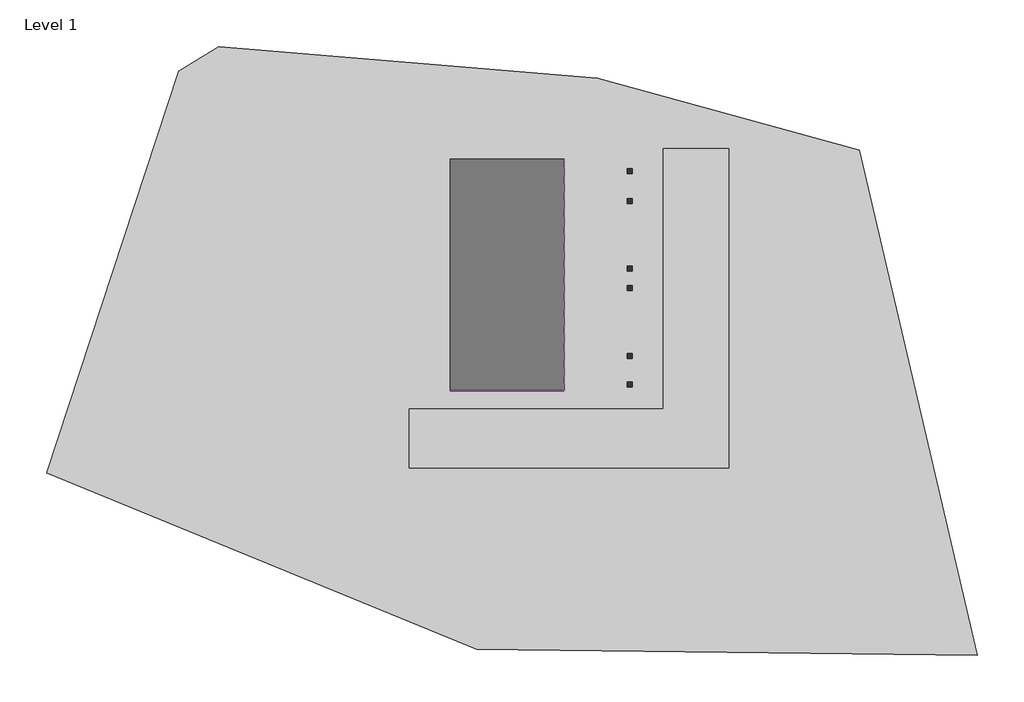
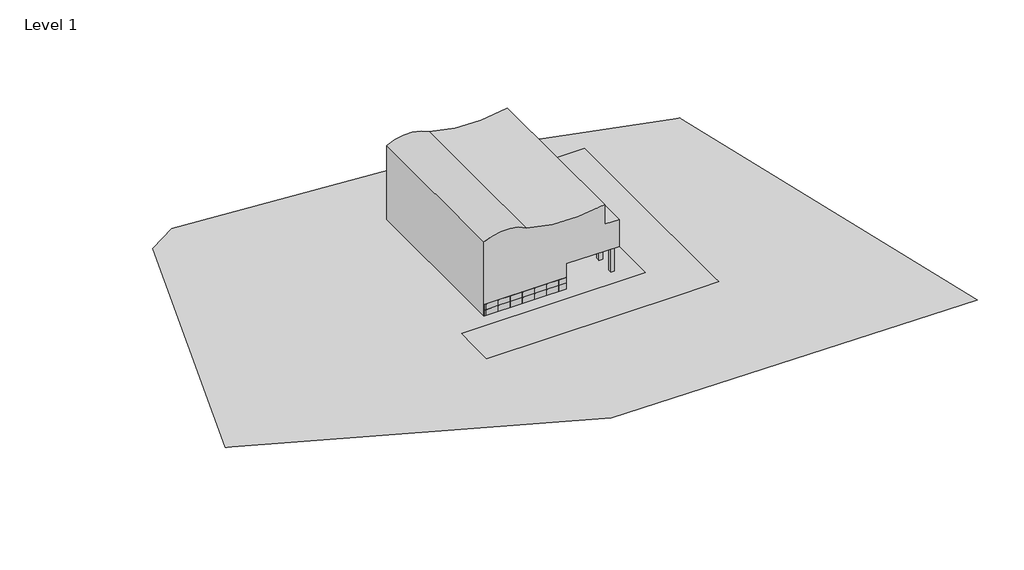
# One storey: 44 plates, 6 columns, 3 proxies.
"""IFC4 building model written with IfcOpenShell, lengths in millimetres."""

import ifcopenshell
import ifcopenshell.guid

model = None  # the IFC model being written
_history = None  # IfcOwnerHistory: only IFC2X3 demands one
_inside = {}  # id of a spatial element -> (the spatial element, [elements in it])
_under = {}  # id of a project, library or spatial element -> (it, [spatial elements below it])
_declared = {}  # id of a project -> (the project, [libraries it declares])
_typed = {}  # id of a type object -> (the type object, [elements of that type])
_made_of = {}  # id of a material, layer set ... -> (it, [elements and type objects made of it])


def new_model(schema):
    """Start an empty IFC model of exactly this schema.

    Asked for "IFC4X3", IfcOpenShell would pick the latest addendum, in which some entities
    have other attributes; the version numbers below select the first issue.
    IFC2X3 requires an IfcOwnerHistory on every rooted entity: one is made here for all.
    """
    global model, _history
    if schema == "IFC4X3":
        model = ifcopenshell.file(schema_version=(4, 3, 0, 0))
    else:
        model = ifcopenshell.file(schema=schema)
    _inside.clear()
    _under.clear()
    _declared.clear()
    _typed.clear()
    _made_of.clear()
    _history = None
    if model.schema == "IFC2X3":
        org = make("IfcOrganization", Name="unknown")
        user = make(
            "IfcPersonAndOrganization",
            ThePerson=make("IfcPerson", FamilyName="unknown"),
            TheOrganization=org,
        )
        app = make(
            "IfcApplication",
            ApplicationDeveloper=org,
            Version="unknown",
            ApplicationFullName="unknown",
            ApplicationIdentifier="unknown",
        )
        _history = make(
            "IfcOwnerHistory",
            OwningUser=user,
            OwningApplication=app,
            ChangeAction="ADDED",
            CreationDate=0,
        )
    return model


def make(cls, **values):
    """One entity of the class cls with the attributes given. An attribute that is None is left unset."""
    return model.create_entity(
        cls, **{name: value for name, value in values.items() if value is not None}
    )


def rooted(cls, **values):
    """An entity with a GlobalId (a new one), such as an element, a storey or a relation."""
    return make(cls, GlobalId=ifcopenshell.guid.new(), OwnerHistory=_history, **values)


def si_unit(unit_type, name, prefix=None):
    """IfcSIUnit, for example si_unit("LENGTHUNIT", "METRE", prefix="MILLI")."""
    return make("IfcSIUnit", UnitType=unit_type, Prefix=prefix, Name=name)


def assignment(units):
    """IfcUnitAssignment: the units of a project."""
    return None if units is None else make("IfcUnitAssignment", Units=units)


def point(xyz):
    """IfcCartesianPoint."""
    return None if xyz is None else make("IfcCartesianPoint", Coordinates=xyz)


def direction(xyz):
    """IfcDirection."""
    return None if xyz is None else make("IfcDirection", DirectionRatios=xyz)


def frame(location, z_axis=None, x_axis=None):
    """IfcAxis2Placement3D, a coordinate frame: its origin and axes. An axis left out is left unset."""
    return make(
        "IfcAxis2Placement3D",
        Location=point(location),
        Axis=direction(z_axis),
        RefDirection=direction(x_axis),
    )


def frame_2d(location, x_axis=None):
    """IfcAxis2Placement2D, a coordinate frame in the plane: its origin and x axis."""
    return make(
        "IfcAxis2Placement2D", Location=point(location), RefDirection=direction(x_axis)
    )


def origin():
    """The frame at (0, 0, 0) with its axes left unset."""
    return frame((0.0, 0.0, 0.0))


def origin_with_axes():
    """The frame at (0, 0, 0) with the z axis (0, 0, 1) and the x axis (1, 0, 0) written out."""
    return frame((0.0, 0.0, 0.0), z_axis=(0.0, 0.0, 1.0), x_axis=(1.0, 0.0, 0.0))


def place(relative_to, where):
    """IfcLocalPlacement: puts the frame where relative to a parent placement (None: the world)."""
    return make(
        "IfcLocalPlacement", PlacementRelTo=relative_to, RelativePlacement=where
    )


def context(
    kind, dimensions, precision=None, world=None, true_north=None, identifier=None
):
    """IfcGeometricRepresentationContext, for example the 3D "Model" context."""
    return make(
        "IfcGeometricRepresentationContext",
        ContextIdentifier=identifier,
        ContextType=kind,
        CoordinateSpaceDimension=dimensions,
        Precision=precision,
        WorldCoordinateSystem=world,
        TrueNorth=true_north,
    )


def project(units=None, contexts=None):
    """IfcProject with its units and contexts."""
    return rooted(
        "IfcProject",
        Name="project",
        RepresentationContexts=contexts,
        UnitsInContext=assignment(units),
    )


def spatial(cls, under=None, at=None, **own):
    """A site, building, storey or space (cls), placed at a placement, below another one or the project."""
    s = rooted(cls, ObjectPlacement=at, **own)
    if under is not None:
        _under.setdefault(under.id(), (under, []))[1].append(s)
    return s


def polyline(points):
    """IfcPolyline through the points."""
    return make("IfcPolyline", Points=[point(p) for p in points])


def point_list(points):
    """IfcCartesianPointList2D or 3D."""
    cls = (
        "IfcCartesianPointList2D" if len(points[0]) == 2 else "IfcCartesianPointList3D"
    )
    return make(cls, CoordList=points)


def circle_curve(where, radius):
    """IfcCircle in the frame where."""
    return make("IfcCircle", Position=where, Radius=radius)


def trimmed(basis, trim1, trim2, sense, master):
    """IfcTrimmedCurve: the piece of a basis curve between two trims."""
    return make(
        "IfcTrimmedCurve",
        BasisCurve=basis,
        Trim1=trim1,
        Trim2=trim2,
        SenseAgreement=sense,
        MasterRepresentation=master,
    )


def segment(curve, same_sense, transition):
    """IfcCompositeCurveSegment."""
    return make(
        "IfcCompositeCurveSegment",
        Transition=transition,
        SameSense=same_sense,
        ParentCurve=curve,
    )


def composite_curve(segments, self_intersect=None):
    """IfcCompositeCurve: segments joined end to end."""
    return make("IfcCompositeCurve", Segments=segments, SelfIntersect=self_intersect)


def outline(outer, holes=None, kind="AREA"):
    """IfcArbitraryClosedProfileDef: a profile drawn as a closed curve; with holes, ...WithVoids."""
    if holes is None:
        return make("IfcArbitraryClosedProfileDef", ProfileType=kind, OuterCurve=outer)
    return make(
        "IfcArbitraryProfileDefWithVoids",
        ProfileType=kind,
        OuterCurve=outer,
        InnerCurves=holes,
    )


def extrude(swept, where, along, depth):
    """IfcExtrudedAreaSolid: the profile swept, set in the frame where, extruded along a direction by depth."""
    return make(
        "IfcExtrudedAreaSolid",
        SweptArea=swept,
        Position=where,
        ExtrudedDirection=direction(along),
        Depth=depth,
    )


def triangles(points, corners, closed=None, point_numbers=None):
    """IfcTriangulatedFaceSet: each triangle names its three corners, points numbered from 1."""
    return make(
        "IfcTriangulatedFaceSet",
        Coordinates=point_list(points),
        Closed=closed,
        CoordIndex=corners,
        PnIndex=point_numbers,
    )


def shape(context_of_items, identifier, shape_type, items):
    """IfcShapeRepresentation: the items that make up one representation, for example the "Body"."""
    return make(
        "IfcShapeRepresentation",
        ContextOfItems=context_of_items,
        RepresentationIdentifier=identifier,
        RepresentationType=shape_type,
        Items=items,
    )


def source(mapping_origin, context_of_items, identifier, shape_type, items):
    """IfcRepresentationMap: a shape defined once, which mapped items show again and again."""
    return make(
        "IfcRepresentationMap",
        MappingOrigin=mapping_origin,
        MappedRepresentation=shape(context_of_items, identifier, shape_type, items),
    )


def transform(
    local_origin,
    x_axis=None,
    y_axis=None,
    z_axis=None,
    scale=None,
    scale2=None,
    scale3=None,
    uniform=True,
):
    """IfcCartesianTransformationOperator3D, or its non-uniform kind. x_axis, y_axis, z_axis: its Axis1, 2, 3."""
    if uniform:
        return make(
            "IfcCartesianTransformationOperator3D",
            Axis1=direction(x_axis),
            Axis2=direction(y_axis),
            LocalOrigin=point(local_origin),
            Scale=scale,
            Axis3=direction(z_axis),
        )
    return make(
        "IfcCartesianTransformationOperator3DnonUniform",
        Axis1=direction(x_axis),
        Axis2=direction(y_axis),
        LocalOrigin=point(local_origin),
        Scale=scale,
        Axis3=direction(z_axis),
        Scale2=scale2,
        Scale3=scale3,
    )


def mapped(mapping_source, mapping_target):
    """IfcMappedItem: shows the shape of a source again, moved by a transform."""
    return make(
        "IfcMappedItem", MappingSource=mapping_source, MappingTarget=mapping_target
    )


def made_of(thing, what):
    """Note that an element or type object is made of a material, layer set ...; save() writes the relation."""
    if what is not None:
        _made_of.setdefault(what.id(), (what, []))[1].append(thing)
    return thing


def element(
    cls,
    number,
    at=None,
    inside=None,
    cuts=None,
    type_object=None,
    material=None,
    context=None,
    identifier="Body",
    shape_type=None,
    held_by="IfcProductDefinitionShape",
    body=None,
    shapes=None,
    **own,
):
    """One element of the class cls, such as IfcWall. Its Tag is "e" and its number.

    at: its placement. inside: the storey or other place that contains it. cuts: it is an
    opening in that element (IfcRelVoidsElement). A single representation is given by context,
    identifier, shape_type and body (its items); several are given by shapes. held_by: the class
    of the entity that holds the representations. save() writes the other relations.
    """
    e = rooted(cls, Tag="e%d" % number, ObjectPlacement=at, **own)
    if body is not None:
        shapes = [shape(context, identifier, shape_type, body)]
    if shapes is not None:
        e.Representation = make(held_by, Representations=shapes)
    if inside is not None:
        _inside.setdefault(inside.id(), (inside, []))[1].append(e)
    if cuts is not None:
        rooted(
            "IfcRelVoidsElement", RelatingBuildingElement=cuts, RelatedOpeningElement=e
        )
    if type_object is not None:
        _typed.setdefault(type_object.id(), (type_object, []))[1].append(e)
    return made_of(e, material)


def aggregate(whole, parts):
    """IfcRelAggregates: a whole, such as a stair, and the parts it consists of."""
    return rooted("IfcRelAggregates", RelatingObject=whole, RelatedObjects=parts)


def save(model, path):
    """Write the relations noted so far, then the file.

    IfcRelAggregates (storeys below a building ...), IfcRelContainedInSpatialStructure (elements
    in a storey), IfcRelDefinesByType, IfcRelAssociatesMaterial and IfcRelDeclares: one each for
    every whole, place, type object, material and project.
    """
    for whole, parts in _under.values():
        aggregate(whole, parts)
    for where, things in _inside.values():
        rooted(
            "IfcRelContainedInSpatialStructure",
            RelatedElements=things,
            RelatingStructure=where,
        )
    for kind, things in _typed.values():
        rooted("IfcRelDefinesByType", RelatedObjects=things, RelatingType=kind)
    for what, things in _made_of.values():
        rooted("IfcRelAssociatesMaterial", RelatedObjects=things, RelatingMaterial=what)
    for by, libraries in _declared.values():
        rooted("IfcRelDeclares", RelatingContext=by, RelatedDefinitions=libraries)
    model.write(path)


def concrete_rectangular_column_12_x_19_ccad1d0a(model_context):
    return source(origin(), model_context, "Body", "SweptSolid", [
        extrude(outline(polyline([(457.2, 457.2), (457.2, -457.2), (-457.2, -457.2), (-457.2, 457.2), (457.2, 457.2)])), origin_with_axes(), (0.0, 0.0, 1.0), 6705.6),
    ])


def system_panel_glazed_81988b3c(model_context):
    return source(origin(), model_context, "Body", "SweptSolid", [
        extrude(outline(polyline([(990.6, 19.05), (-990.6, 19.05), (-990.6, 44.45), (990.6, 44.45), (990.6, 19.05)])), origin_with_axes(), (0.0, 0.0, 1.0), 1524.0),
    ])


def system_panel_glazed_0faff7bc(model_context):
    return source(origin(), model_context, "Body", "SweptSolid", [
        extrude(outline(polyline([(1524.0, 19.05), (-1524.0, 19.05), (-1524.0, 44.45), (1524.0, 44.45), (1524.0, 19.05)])), origin_with_axes(), (0.0, 0.0, 1.0), 1524.0),
    ])


def system_panel_glazed_3beef6a9(model_context):
    return source(origin(), model_context, "Body", "SweptSolid", [
        extrude(outline(polyline([(222.6119514, 19.05), (-222.6119514, 19.05), (-222.6119514, 44.45), (222.6119514, 44.45), (222.6119514, 19.05)])), origin_with_axes(), (0.0, 0.0, 1.0), 1524.0),
    ])


def system_panel_glazed_27cb410f(model_context):
    return source(origin(), model_context, "Body", "SweptSolid", [
        extrude(outline(polyline([(1319.7377931, 19.05), (-1319.7377931, 19.05), (-1319.7377931, 44.45), (1319.7377931, 44.45), (1319.7377931, 19.05)])), origin_with_axes(), (0.0, 0.0, 1.0), 1524.0),
    ])


model = new_model("IFC4")

# Units and contexts
model_context = context("Model", 3, world=origin())
ifc_project = project(units=[si_unit("LENGTHUNIT", "METRE", prefix="MILLI")], contexts=[model_context])

# Site, building, storey
site = spatial("IfcSite", under=ifc_project)
building = spatial("IfcBuilding", under=site)
storey = spatial("IfcBuildingStorey", under=building, Name="Level 1", Elevation=0.0)

# Proxies
placement = place(None, origin())
element("IfcBuildingElementProxy", 1, Name="Building Element Proxy", at=placement, inside=storey, context=model_context, shape_type="Tessellation", body=[
    triangles([(-59818.1394653, 45273.3667969, 0.0), (-67110.7920044, 40785.5849121, 0.0), (-91260.2249268, -32611.2140991, 0.0), (-12810.4575989, -64815.2856079, 0.0), (78583.2963867, -65870.8490845, 0.0), (57051.2757935, 26387.2707458, 0.0), (9181.5610794, 39476.6462036, 0.0), (21148.9904846, -20787.5474304, 0.0), (21148.9904846, 23760.9287292, 0.0), (21148.9904846, 26761.2525696, 0.0), (28426.478833, 26761.2525696, 0.0), (33340.9904846, 26761.2525696, 0.0), (33340.9904846, 23514.1670471, 0.0), (33340.9904846, 7750.3019302, 0.0), (33340.9904846, -30119.7312927, 0.0), (33340.9904846, -31760.3474304, 0.0), (24131.1665955, -31760.3474304, 0.0), (-25180.6095154, -31760.3474304, 0.0), (-25180.6095154, -25946.5278809, 0.0), (-25180.6095154, -20787.5474304, 0.0), (-22470.9609558, -20787.5474304, 0.0), (61539.0576782, 4883.2984406, 0.0), (58734.1916748, -25596.2446106, 0.0), (-33639.3932007, -42051.4564819, 0.0), (-63370.9737671, 22460.4592712, 0.0)], [[20, 3, 24], [24, 3, 4], [19, 24, 18], [19, 20, 24], [4, 18, 24], [17, 18, 4], [2, 25, 1], [25, 2, 3], [1, 25, 7], [20, 21, 7], [9, 7, 21], [20, 7, 25], [25, 3, 20], [21, 8, 9], [17, 4, 16], [15, 16, 23], [23, 5, 22], [5, 23, 16], [22, 5, 6], [15, 23, 14], [4, 5, 16], [22, 14, 23], [10, 11, 7], [9, 10, 7], [13, 14, 6], [12, 6, 7], [6, 12, 13], [14, 22, 6], [11, 12, 7]], closed=False),
])
element("IfcBuildingElementProxy", 2, Name="Building Element Proxy", at=placement, inside=storey, context=model_context, shape_type="Tessellation", body=[
    triangles([(21148.9904846, -20787.5474304, 0.0), (-22470.9609558, -20787.5474304, 0.0), (-25180.6095154, -20787.5474304, 0.0), (-25180.6095154, -25946.5278809, 0.0), (-25180.6095154, -31760.3474304, 0.0), (24131.1665955, -31760.3474304, 0.0), (33340.9904846, -31760.3474304, 0.0), (33340.9904846, -30119.7312927, 0.0), (33340.9904846, 7750.3019302, 0.0), (33340.9904846, 23514.1670471, 0.0), (33340.9904846, 26761.2525696, 0.0), (28426.478833, 26761.2525696, 0.0), (21148.9904846, 26761.2525696, 0.0), (21148.9904846, 23760.9287292, 0.0)], [[4, 2, 3], [2, 4, 5], [1, 2, 5], [12, 13, 14], [14, 1, 9], [5, 6, 1], [6, 7, 8], [8, 9, 1], [14, 10, 12], [14, 9, 10], [10, 11, 12], [1, 6, 8]], closed=False),
])
element("IfcBuildingElementProxy", 3, Name="Family5 : Family5", ObjectType="Family5 : Family5", at=placement, inside=storey, context=model_context, shape_type="SweptSolid", body=[
    extrude(outline(composite_curve([segment(polyline([(19748.0959124, -17581.1406833), (88.4959124, -17581.1406833), (88.4959124, 3133.2832196), (6717.585767, 3133.2832196), (6717.585767, 16392.0832196), (13880.385767, 16392.0832196), (13880.385767, 12734.4832196), (19061.985767, 12734.4832196)]), True, "CONTINUOUS"), segment(trimmed(circle_curve(frame_2d((57217.3410283, 4231.105887)), 39091.4128829), [point((19061.985767, 12734.4832196))], [point((19748.0959124, -6913.1406833))], True, "CARTESIAN"), True, "CONTINUOUS"), segment(trimmed(circle_curve(frame_2d((10428.4272691, -12247.1406833)), 10738.1460048), [point((19748.0959124, -6913.1406833))], [point((19748.0959124, -17581.1406833))], False, "CARTESIAN"), True, "CONTINUOUS")], self_intersect=False)), frame((0.0, -17542.9691989, 0.0), z_axis=(0.0, 1.0, 0.0), x_axis=(0.0, 0.0, 1.0)), (0.0, 0.0, 1.0), 42263.4755861),
])

# Columns
concrete_rectangular_column_12_x_19_shape = concrete_rectangular_column_12_x_19_ccad1d0a(model_context)
element("IfcColumn", 4, ObjectType="Concrete-Rectangular-Column : 12 x 19", at=placement, inside=storey, context=model_context, shape_type="MappedRepresentation", body=[
    mapped(concrete_rectangular_column_12_x_19_shape, transform((15153.5594039, 22525.8232653, 0.0), x_axis=(1.0, 0.0, 0.0), y_axis=(0.0, 1.0, 0.0), z_axis=(0.0, 0.0, 1.0))),
])
element("IfcColumn", 5, ObjectType="Concrete-Rectangular-Column : 12 x 19", at=placement, inside=storey, context=model_context, shape_type="MappedRepresentation", body=[
    mapped(concrete_rectangular_column_12_x_19_shape, transform((15153.5594039, 17023.6344201, 0.0), x_axis=(1.0, 0.0, 0.0), y_axis=(0.0, 1.0, 0.0), z_axis=(0.0, 0.0, 1.0))),
])
element("IfcColumn", 6, ObjectType="Concrete-Rectangular-Column : 12 x 19", at=placement, inside=storey, context=model_context, shape_type="MappedRepresentation", body=[
    mapped(concrete_rectangular_column_12_x_19_shape, transform((15153.5594039, 4712.626276, 0.0), x_axis=(1.0, 0.0, 0.0), y_axis=(0.0, 1.0, 0.0), z_axis=(0.0, 0.0, 1.0))),
])
element("IfcColumn", 7, ObjectType="Concrete-Rectangular-Column : 12 x 19", at=placement, inside=storey, context=model_context, shape_type="MappedRepresentation", body=[
    mapped(concrete_rectangular_column_12_x_19_shape, transform((15153.5594039, 1189.7881524, 0.0), x_axis=(1.0, 0.0, 0.0), y_axis=(0.0, 1.0, 0.0), z_axis=(0.0, 0.0, 1.0))),
])
element("IfcColumn", 8, ObjectType="Concrete-Rectangular-Column : 12 x 19", at=placement, inside=storey, context=model_context, shape_type="MappedRepresentation", body=[
    mapped(concrete_rectangular_column_12_x_19_shape, transform((15153.5594039, -11269.0296015, 0.0), x_axis=(1.0, 0.0, 0.0), y_axis=(0.0, 1.0, 0.0), z_axis=(0.0, 0.0, 1.0))),
])
element("IfcColumn", 9, ObjectType="Concrete-Rectangular-Column : 12 x 19", at=placement, inside=storey, context=model_context, shape_type="MappedRepresentation", body=[
    mapped(concrete_rectangular_column_12_x_19_shape, transform((15153.5594039, -16424.4024652, 0.0), x_axis=(1.0, 0.0, 0.0), y_axis=(0.0, 1.0, 0.0), z_axis=(0.0, 0.0, 1.0))),
])

# Plates
system_panel_glazed_shape = system_panel_glazed_81988b3c(model_context)
element("IfcPlate", 10, ObjectType="System Panel : Glazed", at=placement, inside=storey, context=model_context, shape_type="MappedRepresentation", body=[
    mapped(system_panel_glazed_shape, transform((2142.6832196, -17542.9691989, 88.4959124), x_axis=(-1.0, 0.0, 0.0), y_axis=(0.0, -1.0, 0.0), z_axis=(0.0, 0.0, 1.0))),
])
element("IfcPlate", 11, ObjectType="System Panel : Glazed", at=placement, inside=storey, context=model_context, shape_type="MappedRepresentation", body=[
    mapped(system_panel_glazed_shape, transform((2142.6832196, -17542.9691989, 1612.4959124), x_axis=(-1.0, 0.0, 0.0), y_axis=(0.0, -1.0, 0.0), z_axis=(0.0, 0.0, 1.0))),
])
system_panel_glazed_2_shape = system_panel_glazed_0faff7bc(model_context)
element("IfcPlate", 12, ObjectType="System Panel : Glazed", at=placement, inside=storey, context=model_context, shape_type="MappedRepresentation", body=[
    mapped(system_panel_glazed_2_shape, transform((-371.9167804, -17542.9691989, 88.4959124), x_axis=(-1.0, 0.0, 0.0), y_axis=(0.0, -1.0, 0.0), z_axis=(0.0, 0.0, 1.0))),
])
element("IfcPlate", 13, ObjectType="System Panel : Glazed", at=placement, inside=storey, context=model_context, shape_type="MappedRepresentation", body=[
    mapped(system_panel_glazed_2_shape, transform((-3419.9167804, -17542.9691989, 88.4959124), x_axis=(-1.0, 0.0, 0.0), y_axis=(0.0, -1.0, 0.0), z_axis=(0.0, 0.0, 1.0))),
])
element("IfcPlate", 14, ObjectType="System Panel : Glazed", at=placement, inside=storey, context=model_context, shape_type="MappedRepresentation", body=[
    mapped(system_panel_glazed_2_shape, transform((-6467.9167804, -17542.9691989, 88.4959124), x_axis=(-1.0, 0.0, 0.0), y_axis=(0.0, -1.0, 0.0), z_axis=(0.0, 0.0, 1.0))),
])
element("IfcPlate", 15, ObjectType="System Panel : Glazed", at=placement, inside=storey, context=model_context, shape_type="MappedRepresentation", body=[
    mapped(system_panel_glazed_2_shape, transform((-9515.9167804, -17542.9691989, 88.4959124), x_axis=(-1.0, 0.0, 0.0), y_axis=(0.0, -1.0, 0.0), z_axis=(0.0, 0.0, 1.0))),
])
element("IfcPlate", 16, ObjectType="System Panel : Glazed", at=placement, inside=storey, context=model_context, shape_type="MappedRepresentation", body=[
    mapped(system_panel_glazed_2_shape, transform((-12563.9167804, -17542.9691989, 88.4959124), x_axis=(-1.0, 0.0, 0.0), y_axis=(0.0, -1.0, 0.0), z_axis=(0.0, 0.0, 1.0))),
])
element("IfcPlate", 17, ObjectType="System Panel : Glazed", at=placement, inside=storey, context=model_context, shape_type="MappedRepresentation", body=[
    mapped(system_panel_glazed_2_shape, transform((-15611.9167804, -17542.9691989, 88.4959124), x_axis=(-1.0, 0.0, 0.0), y_axis=(0.0, -1.0, 0.0), z_axis=(0.0, 0.0, 1.0))),
])
element("IfcPlate", 18, ObjectType="System Panel : Glazed", at=placement, inside=storey, context=model_context, shape_type="MappedRepresentation", body=[
    mapped(system_panel_glazed_2_shape, transform((-371.9167804, -17542.9691989, 1612.4959124), x_axis=(-1.0, 0.0, 0.0), y_axis=(0.0, -1.0, 0.0), z_axis=(0.0, 0.0, 1.0))),
])
element("IfcPlate", 19, ObjectType="System Panel : Glazed", at=placement, inside=storey, context=model_context, shape_type="MappedRepresentation", body=[
    mapped(system_panel_glazed_2_shape, transform((-3419.9167804, -17542.9691989, 1612.4959124), x_axis=(-1.0, 0.0, 0.0), y_axis=(0.0, -1.0, 0.0), z_axis=(0.0, 0.0, 1.0))),
])
element("IfcPlate", 20, ObjectType="System Panel : Glazed", at=placement, inside=storey, context=model_context, shape_type="MappedRepresentation", body=[
    mapped(system_panel_glazed_2_shape, transform((-6467.9167804, -17542.9691989, 1612.4959124), x_axis=(-1.0, 0.0, 0.0), y_axis=(0.0, -1.0, 0.0), z_axis=(0.0, 0.0, 1.0))),
])
element("IfcPlate", 21, ObjectType="System Panel : Glazed", at=placement, inside=storey, context=model_context, shape_type="MappedRepresentation", body=[
    mapped(system_panel_glazed_2_shape, transform((-9515.9167804, -17542.9691989, 1612.4959124), x_axis=(-1.0, 0.0, 0.0), y_axis=(0.0, -1.0, 0.0), z_axis=(0.0, 0.0, 1.0))),
])
element("IfcPlate", 22, ObjectType="System Panel : Glazed", at=placement, inside=storey, context=model_context, shape_type="MappedRepresentation", body=[
    mapped(system_panel_glazed_2_shape, transform((-12563.9167804, -17542.9691989, 1612.4959124), x_axis=(-1.0, 0.0, 0.0), y_axis=(0.0, -1.0, 0.0), z_axis=(0.0, 0.0, 1.0))),
])
element("IfcPlate", 23, ObjectType="System Panel : Glazed", at=placement, inside=storey, context=model_context, shape_type="MappedRepresentation", body=[
    mapped(system_panel_glazed_2_shape, transform((-15611.9167804, -17542.9691989, 1612.4959124), x_axis=(-1.0, 0.0, 0.0), y_axis=(0.0, -1.0, 0.0), z_axis=(0.0, 0.0, 1.0))),
])
element("IfcPlate", 24, ObjectType="System Panel : Glazed", at=placement, inside=storey, context=model_context, shape_type="MappedRepresentation", body=[
    mapped(system_panel_glazed_2_shape, transform((3133.2832196, 23196.5063873, 88.4959124), x_axis=(0.0, -1.0, 0.0), y_axis=(1.0, 0.0, 0.0), z_axis=(0.0, 0.0, 1.0))),
])
element("IfcPlate", 25, ObjectType="System Panel : Glazed", at=placement, inside=storey, context=model_context, shape_type="MappedRepresentation", body=[
    mapped(system_panel_glazed_2_shape, transform((3133.2832196, 20148.5063873, 88.4959124), x_axis=(0.0, -1.0, 0.0), y_axis=(1.0, 0.0, 0.0), z_axis=(0.0, 0.0, 1.0))),
])
element("IfcPlate", 26, ObjectType="System Panel : Glazed", at=placement, inside=storey, context=model_context, shape_type="MappedRepresentation", body=[
    mapped(system_panel_glazed_2_shape, transform((3133.2832196, 17100.5063873, 88.4959124), x_axis=(0.0, -1.0, 0.0), y_axis=(1.0, 0.0, 0.0), z_axis=(0.0, 0.0, 1.0))),
])
element("IfcPlate", 27, ObjectType="System Panel : Glazed", at=placement, inside=storey, context=model_context, shape_type="MappedRepresentation", body=[
    mapped(system_panel_glazed_2_shape, transform((3133.2832196, 14052.5063873, 88.4959124), x_axis=(0.0, -1.0, 0.0), y_axis=(1.0, 0.0, 0.0), z_axis=(0.0, 0.0, 1.0))),
])
element("IfcPlate", 28, ObjectType="System Panel : Glazed", at=placement, inside=storey, context=model_context, shape_type="MappedRepresentation", body=[
    mapped(system_panel_glazed_2_shape, transform((3133.2832196, 11004.5063873, 88.4959124), x_axis=(0.0, -1.0, 0.0), y_axis=(1.0, 0.0, 0.0), z_axis=(0.0, 0.0, 1.0))),
])
element("IfcPlate", 29, ObjectType="System Panel : Glazed", at=placement, inside=storey, context=model_context, shape_type="MappedRepresentation", body=[
    mapped(system_panel_glazed_2_shape, transform((3133.2832196, 7956.5063873, 88.4959124), x_axis=(0.0, -1.0, 0.0), y_axis=(1.0, 0.0, 0.0), z_axis=(0.0, 0.0, 1.0))),
])
element("IfcPlate", 30, ObjectType="System Panel : Glazed", at=placement, inside=storey, context=model_context, shape_type="MappedRepresentation", body=[
    mapped(system_panel_glazed_2_shape, transform((3133.2832196, 4908.5063873, 88.4959124), x_axis=(0.0, -1.0, 0.0), y_axis=(1.0, 0.0, 0.0), z_axis=(0.0, 0.0, 1.0))),
])
element("IfcPlate", 31, ObjectType="System Panel : Glazed", at=placement, inside=storey, context=model_context, shape_type="MappedRepresentation", body=[
    mapped(system_panel_glazed_2_shape, transform((3133.2832196, 1860.5063873, 88.4959124), x_axis=(0.0, -1.0, 0.0), y_axis=(1.0, 0.0, 0.0), z_axis=(0.0, 0.0, 1.0))),
])
element("IfcPlate", 32, ObjectType="System Panel : Glazed", at=placement, inside=storey, context=model_context, shape_type="MappedRepresentation", body=[
    mapped(system_panel_glazed_2_shape, transform((3133.2832196, -1187.4936127, 88.4959124), x_axis=(0.0, -1.0, 0.0), y_axis=(1.0, 0.0, 0.0), z_axis=(0.0, 0.0, 1.0))),
])
element("IfcPlate", 33, ObjectType="System Panel : Glazed", at=placement, inside=storey, context=model_context, shape_type="MappedRepresentation", body=[
    mapped(system_panel_glazed_2_shape, transform((3133.2832196, -4235.4936127, 88.4959124), x_axis=(0.0, -1.0, 0.0), y_axis=(1.0, 0.0, 0.0), z_axis=(0.0, 0.0, 1.0))),
])
element("IfcPlate", 34, ObjectType="System Panel : Glazed", at=placement, inside=storey, context=model_context, shape_type="MappedRepresentation", body=[
    mapped(system_panel_glazed_2_shape, transform((3133.2832196, -7283.4936127, 88.4959124), x_axis=(0.0, -1.0, 0.0), y_axis=(1.0, 0.0, 0.0), z_axis=(0.0, 0.0, 1.0))),
])
element("IfcPlate", 35, ObjectType="System Panel : Glazed", at=placement, inside=storey, context=model_context, shape_type="MappedRepresentation", body=[
    mapped(system_panel_glazed_2_shape, transform((3133.2832196, -10331.4936127, 88.4959124), x_axis=(0.0, -1.0, 0.0), y_axis=(1.0, 0.0, 0.0), z_axis=(0.0, 0.0, 1.0))),
])
element("IfcPlate", 36, ObjectType="System Panel : Glazed", at=placement, inside=storey, context=model_context, shape_type="MappedRepresentation", body=[
    mapped(system_panel_glazed_2_shape, transform((3133.2832196, -13379.4936127, 88.4959124), x_axis=(0.0, -1.0, 0.0), y_axis=(1.0, 0.0, 0.0), z_axis=(0.0, 0.0, 1.0))),
])
element("IfcPlate", 37, ObjectType="System Panel : Glazed", at=placement, inside=storey, context=model_context, shape_type="MappedRepresentation", body=[
    mapped(system_panel_glazed_2_shape, transform((3133.2832196, 23196.5063873, 1612.4959124), x_axis=(0.0, -1.0, 0.0), y_axis=(1.0, 0.0, 0.0), z_axis=(0.0, 0.0, 1.0))),
])
element("IfcPlate", 38, ObjectType="System Panel : Glazed", at=placement, inside=storey, context=model_context, shape_type="MappedRepresentation", body=[
    mapped(system_panel_glazed_2_shape, transform((3133.2832196, 20148.5063873, 1612.4959124), x_axis=(0.0, -1.0, 0.0), y_axis=(1.0, 0.0, 0.0), z_axis=(0.0, 0.0, 1.0))),
])
element("IfcPlate", 39, ObjectType="System Panel : Glazed", at=placement, inside=storey, context=model_context, shape_type="MappedRepresentation", body=[
    mapped(system_panel_glazed_2_shape, transform((3133.2832196, 17100.5063873, 1612.4959124), x_axis=(0.0, -1.0, 0.0), y_axis=(1.0, 0.0, 0.0), z_axis=(0.0, 0.0, 1.0))),
])
element("IfcPlate", 40, ObjectType="System Panel : Glazed", at=placement, inside=storey, context=model_context, shape_type="MappedRepresentation", body=[
    mapped(system_panel_glazed_2_shape, transform((3133.2832196, 14052.5063873, 1612.4959124), x_axis=(0.0, -1.0, 0.0), y_axis=(1.0, 0.0, 0.0), z_axis=(0.0, 0.0, 1.0))),
])
element("IfcPlate", 41, ObjectType="System Panel : Glazed", at=placement, inside=storey, context=model_context, shape_type="MappedRepresentation", body=[
    mapped(system_panel_glazed_2_shape, transform((3133.2832196, 11004.5063873, 1612.4959124), x_axis=(0.0, -1.0, 0.0), y_axis=(1.0, 0.0, 0.0), z_axis=(0.0, 0.0, 1.0))),
])
element("IfcPlate", 42, ObjectType="System Panel : Glazed", at=placement, inside=storey, context=model_context, shape_type="MappedRepresentation", body=[
    mapped(system_panel_glazed_2_shape, transform((3133.2832196, 7956.5063873, 1612.4959124), x_axis=(0.0, -1.0, 0.0), y_axis=(1.0, 0.0, 0.0), z_axis=(0.0, 0.0, 1.0))),
])
element("IfcPlate", 43, ObjectType="System Panel : Glazed", at=placement, inside=storey, context=model_context, shape_type="MappedRepresentation", body=[
    mapped(system_panel_glazed_2_shape, transform((3133.2832196, 4908.5063873, 1612.4959124), x_axis=(0.0, -1.0, 0.0), y_axis=(1.0, 0.0, 0.0), z_axis=(0.0, 0.0, 1.0))),
])
element("IfcPlate", 44, ObjectType="System Panel : Glazed", at=placement, inside=storey, context=model_context, shape_type="MappedRepresentation", body=[
    mapped(system_panel_glazed_2_shape, transform((3133.2832196, 1860.5063873, 1612.4959124), x_axis=(0.0, -1.0, 0.0), y_axis=(1.0, 0.0, 0.0), z_axis=(0.0, 0.0, 1.0))),
])
element("IfcPlate", 45, ObjectType="System Panel : Glazed", at=placement, inside=storey, context=model_context, shape_type="MappedRepresentation", body=[
    mapped(system_panel_glazed_2_shape, transform((3133.2832196, -1187.4936127, 1612.4959124), x_axis=(0.0, -1.0, 0.0), y_axis=(1.0, 0.0, 0.0), z_axis=(0.0, 0.0, 1.0))),
])
element("IfcPlate", 46, ObjectType="System Panel : Glazed", at=placement, inside=storey, context=model_context, shape_type="MappedRepresentation", body=[
    mapped(system_panel_glazed_2_shape, transform((3133.2832196, -4235.4936127, 1612.4959124), x_axis=(0.0, -1.0, 0.0), y_axis=(1.0, 0.0, 0.0), z_axis=(0.0, 0.0, 1.0))),
])
element("IfcPlate", 47, ObjectType="System Panel : Glazed", at=placement, inside=storey, context=model_context, shape_type="MappedRepresentation", body=[
    mapped(system_panel_glazed_2_shape, transform((3133.2832196, -7283.4936127, 1612.4959124), x_axis=(0.0, -1.0, 0.0), y_axis=(1.0, 0.0, 0.0), z_axis=(0.0, 0.0, 1.0))),
])
element("IfcPlate", 48, ObjectType="System Panel : Glazed", at=placement, inside=storey, context=model_context, shape_type="MappedRepresentation", body=[
    mapped(system_panel_glazed_2_shape, transform((3133.2832196, -10331.4936127, 1612.4959124), x_axis=(0.0, -1.0, 0.0), y_axis=(1.0, 0.0, 0.0), z_axis=(0.0, 0.0, 1.0))),
])
element("IfcPlate", 49, ObjectType="System Panel : Glazed", at=placement, inside=storey, context=model_context, shape_type="MappedRepresentation", body=[
    mapped(system_panel_glazed_2_shape, transform((3133.2832196, -13379.4936127, 1612.4959124), x_axis=(0.0, -1.0, 0.0), y_axis=(1.0, 0.0, 0.0), z_axis=(0.0, 0.0, 1.0))),
])
system_panel_glazed_3_shape = system_panel_glazed_3beef6a9(model_context)
element("IfcPlate", 50, ObjectType="System Panel : Glazed", at=placement, inside=storey, context=model_context, shape_type="MappedRepresentation", body=[
    mapped(system_panel_glazed_3_shape, transform((-17358.5287318, -17542.9691989, 88.4959124), x_axis=(-1.0, 0.0, 0.0), y_axis=(0.0, -1.0, 0.0), z_axis=(0.0, 0.0, 1.0))),
])
element("IfcPlate", 51, ObjectType="System Panel : Glazed", at=placement, inside=storey, context=model_context, shape_type="MappedRepresentation", body=[
    mapped(system_panel_glazed_3_shape, transform((-17358.5287318, -17542.9691989, 1612.4959124), x_axis=(-1.0, 0.0, 0.0), y_axis=(0.0, -1.0, 0.0), z_axis=(0.0, 0.0, 1.0))),
])
system_panel_glazed_4_shape = system_panel_glazed_27cb410f(model_context)
element("IfcPlate", 52, ObjectType="System Panel : Glazed", at=placement, inside=storey, context=model_context, shape_type="MappedRepresentation", body=[
    mapped(system_panel_glazed_4_shape, transform((3133.2832196, -16223.2314058, 88.4959124), x_axis=(0.0, -1.0, 0.0), y_axis=(1.0, 0.0, 0.0), z_axis=(0.0, 0.0, 1.0))),
])
element("IfcPlate", 53, ObjectType="System Panel : Glazed", at=placement, inside=storey, context=model_context, shape_type="MappedRepresentation", body=[
    mapped(system_panel_glazed_4_shape, transform((3133.2832196, -16223.2314058, 1612.4959124), x_axis=(0.0, -1.0, 0.0), y_axis=(1.0, 0.0, 0.0), z_axis=(0.0, 0.0, 1.0))),
])

save(model, "model.ifc")
